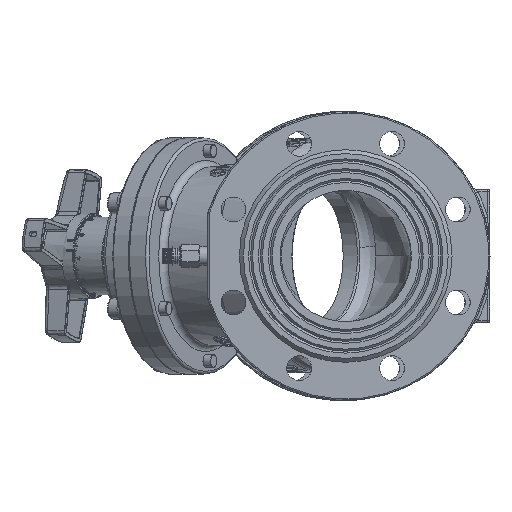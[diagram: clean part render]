
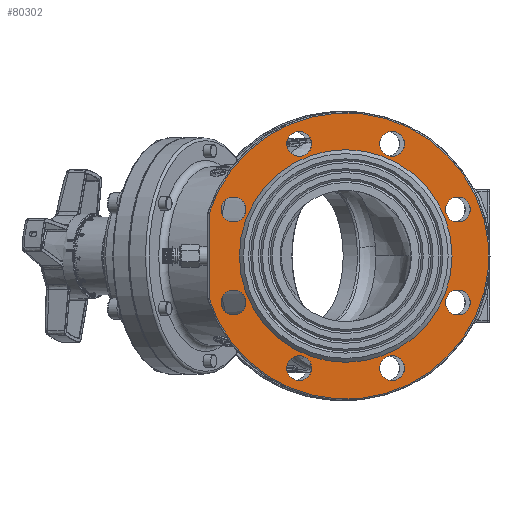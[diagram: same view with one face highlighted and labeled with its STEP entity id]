
A CAD part, left-side view. The second image highlights one B-rep face of the part: STEP entity #80302.
In plain terms, the highlighted planar face has unit normal (-1, -0.012, 0) as drawn and (-1, 0, 0) by its records, which use the part's own axes.
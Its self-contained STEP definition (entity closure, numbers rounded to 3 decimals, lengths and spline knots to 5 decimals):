
#236=PLANE('',#85914);
#3691=FACE_BOUND('',#14906,.T.);
#3692=FACE_BOUND('',#14907,.T.);
#3693=FACE_BOUND('',#14908,.T.);
#3694=FACE_BOUND('',#14909,.T.);
#3695=FACE_BOUND('',#14910,.T.);
#3696=FACE_BOUND('',#14911,.T.);
#3697=FACE_BOUND('',#14912,.T.);
#3698=FACE_BOUND('',#14913,.T.);
#3699=FACE_BOUND('',#14914,.T.);
#4240=CIRCLE('',#85484,0.0095);
#4242=CIRCLE('',#85487,0.0095);
#4244=CIRCLE('',#85490,0.0095);
#4246=CIRCLE('',#85493,0.0095);
#4248=CIRCLE('',#85496,0.0095);
#4250=CIRCLE('',#85499,0.0095);
#4290=CIRCLE('',#85564,0.109);
#4357=CIRCLE('',#85658,0.081);
#4384=CIRCLE('',#85700,0.0095);
#4386=CIRCLE('',#85703,0.0095);
#9769=FACE_OUTER_BOUND('',#14905,.T.);
#14905=EDGE_LOOP('',(#55755,#55756));
#14906=EDGE_LOOP('',(#55757));
#14907=EDGE_LOOP('',(#55758));
#14908=EDGE_LOOP('',(#55759));
#14909=EDGE_LOOP('',(#55760));
#14910=EDGE_LOOP('',(#55761));
#14911=EDGE_LOOP('',(#55762));
#14912=EDGE_LOOP('',(#55763));
#14913=EDGE_LOOP('',(#55764));
#14914=EDGE_LOOP('',(#55765));
#20480=LINE('',#136923,#26281);
#26281=VECTOR('',#95165,1.);
#34233=VERTEX_POINT('',#118817);
#34235=VERTEX_POINT('',#118823);
#34237=VERTEX_POINT('',#118829);
#34239=VERTEX_POINT('',#118835);
#34241=VERTEX_POINT('',#118841);
#34243=VERTEX_POINT('',#118847);
#34284=VERTEX_POINT('',#118977);
#34285=VERTEX_POINT('',#118978);
#34374=VERTEX_POINT('',#126769);
#34500=VERTEX_POINT('',#130187);
#34502=VERTEX_POINT('',#130193);
#42136=EDGE_CURVE('',#34233,#34233,#4240,.T.);
#42139=EDGE_CURVE('',#34235,#34235,#4242,.T.);
#42142=EDGE_CURVE('',#34237,#34237,#4244,.T.);
#42145=EDGE_CURVE('',#34239,#34239,#4246,.T.);
#42148=EDGE_CURVE('',#34241,#34241,#4248,.T.);
#42151=EDGE_CURVE('',#34243,#34243,#4250,.T.);
#42214=EDGE_CURVE('',#34284,#34285,#4290,.T.);
#42325=EDGE_CURVE('',#34374,#34374,#4357,.T.);
#42461=EDGE_CURVE('',#34500,#34500,#4384,.T.);
#42464=EDGE_CURVE('',#34502,#34502,#4386,.T.);
#42999=EDGE_CURVE('',#34285,#34284,#20480,.T.);
#55755=ORIENTED_EDGE('',*,*,#42214,.T.);
#55756=ORIENTED_EDGE('',*,*,#42999,.T.);
#55757=ORIENTED_EDGE('',*,*,#42325,.F.);
#55758=ORIENTED_EDGE('',*,*,#42136,.F.);
#55759=ORIENTED_EDGE('',*,*,#42139,.F.);
#55760=ORIENTED_EDGE('',*,*,#42461,.F.);
#55761=ORIENTED_EDGE('',*,*,#42464,.F.);
#55762=ORIENTED_EDGE('',*,*,#42142,.F.);
#55763=ORIENTED_EDGE('',*,*,#42145,.F.);
#55764=ORIENTED_EDGE('',*,*,#42148,.F.);
#55765=ORIENTED_EDGE('',*,*,#42151,.F.);
#80302=ADVANCED_FACE('',(#9769,#3691,#3692,#3693,#3694,#3695,#3696,#3697,
#3698,#3699),#236,.F.);
#85484=AXIS2_PLACEMENT_3D('',#118819,#94076,#94077);
#85487=AXIS2_PLACEMENT_3D('',#118825,#94083,#94084);
#85490=AXIS2_PLACEMENT_3D('',#118831,#94090,#94091);
#85493=AXIS2_PLACEMENT_3D('',#118837,#94097,#94098);
#85496=AXIS2_PLACEMENT_3D('',#118843,#94104,#94105);
#85499=AXIS2_PLACEMENT_3D('',#118849,#94111,#94112);
#85564=AXIS2_PLACEMENT_3D('',#118979,#94264,#94265);
#85658=AXIS2_PLACEMENT_3D('',#126770,#94474,#94475);
#85700=AXIS2_PLACEMENT_3D('',#130189,#94575,#94576);
#85703=AXIS2_PLACEMENT_3D('',#130195,#94582,#94583);
#85914=AXIS2_PLACEMENT_3D('',#136922,#95163,#95164);
#94076=DIRECTION('center_axis',(-1.,0.,0.));
#94077=DIRECTION('ref_axis',(0.,0.,-1.));
#94083=DIRECTION('center_axis',(-1.,0.,0.));
#94084=DIRECTION('ref_axis',(0.,0.,-1.));
#94090=DIRECTION('center_axis',(-1.,0.,0.));
#94091=DIRECTION('ref_axis',(0.,0.,-1.));
#94097=DIRECTION('center_axis',(-1.,0.,0.));
#94098=DIRECTION('ref_axis',(0.,0.,-1.));
#94104=DIRECTION('center_axis',(-1.,0.,0.));
#94105=DIRECTION('ref_axis',(0.,0.,-1.));
#94111=DIRECTION('center_axis',(-1.,0.,0.));
#94112=DIRECTION('ref_axis',(0.,0.,-1.));
#94264=DIRECTION('center_axis',(-1.,0.,0.));
#94265=DIRECTION('ref_axis',(0.,0.,-1.));
#94474=DIRECTION('center_axis',(-1.,0.,0.));
#94475=DIRECTION('ref_axis',(0.,0.,1.));
#94575=DIRECTION('center_axis',(-1.,0.,0.));
#94576=DIRECTION('ref_axis',(0.,0.,-1.));
#94582=DIRECTION('center_axis',(-1.,0.,0.));
#94583=DIRECTION('ref_axis',(0.,0.,-1.));
#95163=DIRECTION('center_axis',(1.,0.,0.));
#95164=DIRECTION('ref_axis',(0.,0.,-1.));
#95165=DIRECTION('',(0.,0.,-1.));
#118817=CARTESIAN_POINT('',(-0.172,0.0354,-0.09496));
#118819=CARTESIAN_POINT('Origin',(-0.172,0.0354,-0.08546));
#118823=CARTESIAN_POINT('',(-0.172,-0.0354,-0.09496));
#118825=CARTESIAN_POINT('Origin',(-0.172,-0.0354,-0.08546));
#118829=CARTESIAN_POINT('',(-0.172,-0.0354,0.07596));
#118831=CARTESIAN_POINT('Origin',(-0.172,-0.0354,0.08546));
#118835=CARTESIAN_POINT('',(-0.172,0.0354,0.07596));
#118837=CARTESIAN_POINT('Origin',(-0.172,0.0354,0.08546));
#118841=CARTESIAN_POINT('',(-0.172,0.08546,0.0259));
#118843=CARTESIAN_POINT('Origin',(-0.172,0.08546,0.0354));
#118847=CARTESIAN_POINT('',(-0.172,0.08546,-0.0449));
#118849=CARTESIAN_POINT('Origin',(-0.172,0.08546,-0.0354));
#118977=CARTESIAN_POINT('',(-0.172,0.104,-0.03263));
#118978=CARTESIAN_POINT('',(-0.172,0.104,0.03263));
#118979=CARTESIAN_POINT('Origin',(-0.172,0.,0.));
#126769=CARTESIAN_POINT('',(-0.172,0.,0.081));
#126770=CARTESIAN_POINT('Origin',(-0.172,0.,0.));
#130187=CARTESIAN_POINT('',(-0.172,-0.08546,-0.0449));
#130189=CARTESIAN_POINT('Origin',(-0.172,-0.08546,-0.0354));
#130193=CARTESIAN_POINT('',(-0.172,-0.08546,0.0259));
#130195=CARTESIAN_POINT('Origin',(-0.172,-0.08546,0.0354));
#136922=CARTESIAN_POINT('Origin',(-0.172,0.11,0.));
#136923=CARTESIAN_POINT('',(-0.172,0.104,0.));
